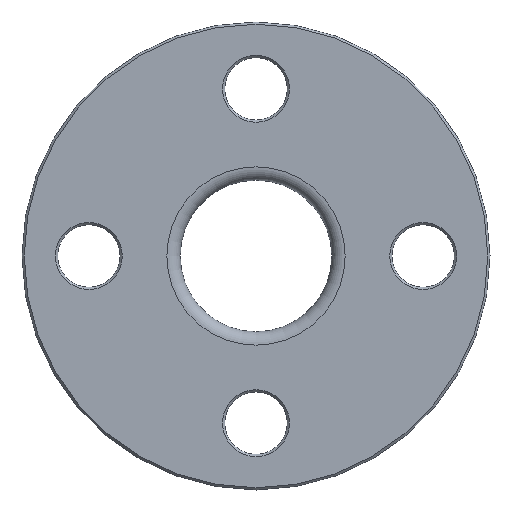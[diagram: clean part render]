
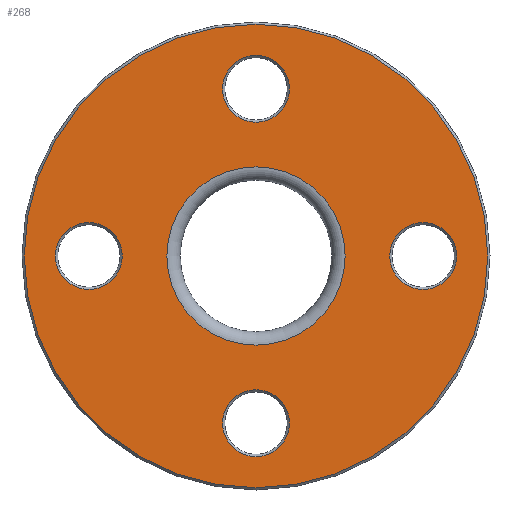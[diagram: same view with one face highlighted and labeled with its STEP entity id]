
A CAD part, front view. The second image highlights one B-rep face of the part: STEP entity #268.
In plain terms, the highlighted planar face has unit normal (0, -1, 0).
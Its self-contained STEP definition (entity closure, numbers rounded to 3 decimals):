
#23=PLANE('',#320);
#62=ORIENTED_EDGE('',*,*,#101,.T.);
#63=ORIENTED_EDGE('',*,*,#102,.T.);
#64=ORIENTED_EDGE('',*,*,#84,.T.);
#65=ORIENTED_EDGE('',*,*,#88,.T.);
#66=ORIENTED_EDGE('',*,*,#92,.T.);
#67=ORIENTED_EDGE('',*,*,#103,.T.);
#84=EDGE_CURVE('',#108,#108,#132,.T.);
#88=EDGE_CURVE('',#112,#112,#136,.T.);
#92=EDGE_CURVE('',#116,#116,#140,.T.);
#101=EDGE_CURVE('',#125,#125,#149,.F.);
#102=EDGE_CURVE('',#126,#126,#150,.T.);
#103=EDGE_CURVE('',#127,#127,#151,.T.);
#108=VERTEX_POINT('',#431);
#112=VERTEX_POINT('',#442);
#116=VERTEX_POINT('',#453);
#125=VERTEX_POINT('',#476);
#126=VERTEX_POINT('',#478);
#127=VERTEX_POINT('',#480);
#132=CIRCLE('',#293,7.5);
#136=CIRCLE('',#300,7.5);
#140=CIRCLE('',#307,7.5);
#149=CIRCLE('',#321,52.);
#150=CIRCLE('',#322,20.);
#151=CIRCLE('',#323,7.5);
#182=EDGE_LOOP('',(#62));
#183=EDGE_LOOP('',(#63));
#184=EDGE_LOOP('',(#64));
#185=EDGE_LOOP('',(#65));
#186=EDGE_LOOP('',(#66));
#187=EDGE_LOOP('',(#67));
#230=FACE_BOUND('',#182,.T.);
#231=FACE_BOUND('',#183,.T.);
#232=FACE_BOUND('',#184,.T.);
#233=FACE_BOUND('',#185,.T.);
#234=FACE_BOUND('',#186,.T.);
#235=FACE_BOUND('',#187,.T.);
#268=ADVANCED_FACE('',(#230,#231,#232,#233,#234,#235),#23,.F.);
#293=AXIS2_PLACEMENT_3D('',#430,#343,#344);
#300=AXIS2_PLACEMENT_3D('',#441,#357,#358);
#307=AXIS2_PLACEMENT_3D('',#452,#371,#372);
#320=AXIS2_PLACEMENT_3D('',#474,#397,#398);
#321=AXIS2_PLACEMENT_3D('',#475,#399,#400);
#322=AXIS2_PLACEMENT_3D('',#477,#401,#402);
#323=AXIS2_PLACEMENT_3D('',#479,#403,#404);
#343=DIRECTION('',(0.,1.,0.));
#344=DIRECTION('',(0.,0.,1.));
#357=DIRECTION('',(0.,1.,0.));
#358=DIRECTION('',(-1.,0.,0.));
#371=DIRECTION('',(0.,1.,0.));
#372=DIRECTION('',(0.,0.,-1.));
#397=DIRECTION('',(0.,1.,0.));
#398=DIRECTION('',(0.,0.,1.));
#399=DIRECTION('',(0.,1.,0.));
#400=DIRECTION('',(0.,0.,1.));
#401=DIRECTION('',(0.,1.,0.));
#402=DIRECTION('',(0.,0.,1.));
#403=DIRECTION('',(0.,1.,0.));
#404=DIRECTION('',(1.,0.,0.));
#430=CARTESIAN_POINT('',(-37.5,0.,0.));
#431=CARTESIAN_POINT('',(-37.5,0.,7.5));
#441=CARTESIAN_POINT('',(0.,0.,-37.5));
#442=CARTESIAN_POINT('',(-7.5,0.,-37.5));
#452=CARTESIAN_POINT('',(37.5,0.,0.));
#453=CARTESIAN_POINT('',(37.5,0.,-7.5));
#474=CARTESIAN_POINT('',(0.,0.,0.));
#475=CARTESIAN_POINT('',(0.,0.,0.));
#476=CARTESIAN_POINT('',(0.,0.,52.));
#477=CARTESIAN_POINT('',(0.,0.,0.));
#478=CARTESIAN_POINT('',(0.,0.,20.));
#479=CARTESIAN_POINT('',(0.,0.,37.5));
#480=CARTESIAN_POINT('',(7.5,0.,37.5));
